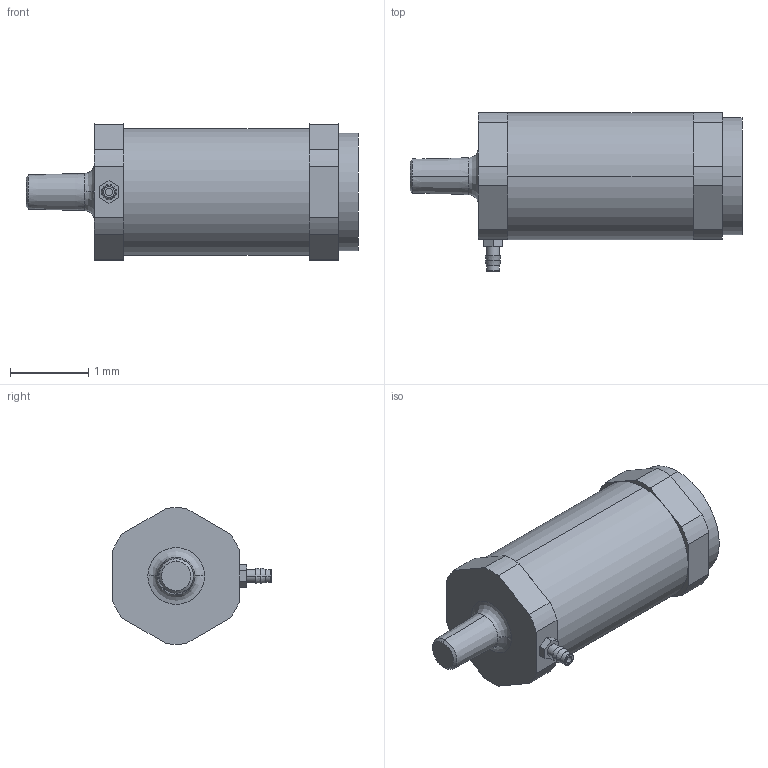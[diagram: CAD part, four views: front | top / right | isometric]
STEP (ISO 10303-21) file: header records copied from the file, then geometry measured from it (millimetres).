
FILE_DESCRIPTION((''),'2;1');
FILE_NAME('XB4.stp','2017-11-07T11:38:34',(''),(''),'Mechanical Desktop 2011','Mechanical Desktop 2011',', , ');
FILE_SCHEMA(('CONFIG_CONTROL_DESIGN'));
Length unit declared in the file: millimetre
Products named in the file (1): Product
Bounding box: 4.25 x 2.03 x 1.75 mm (x, y, z)
Volume: 7.2 mm3; surface area: 35.6 mm2
Topology: 5 solids, 5 shells, 66 faces, 151 edges, 99 vertices
Faces by surface type: plane 32, cylinder 22, cone 8, torus 2, bspline 2
Entity records: 2053 total; most frequent: CARTESIAN_POINT 405, DIRECTION 348, ORIENTED_EDGE 302, EDGE_CURVE 151, AXIS2_PLACEMENT_3D 132, VERTEX_POINT 99, VECTOR 84, LINE 84
